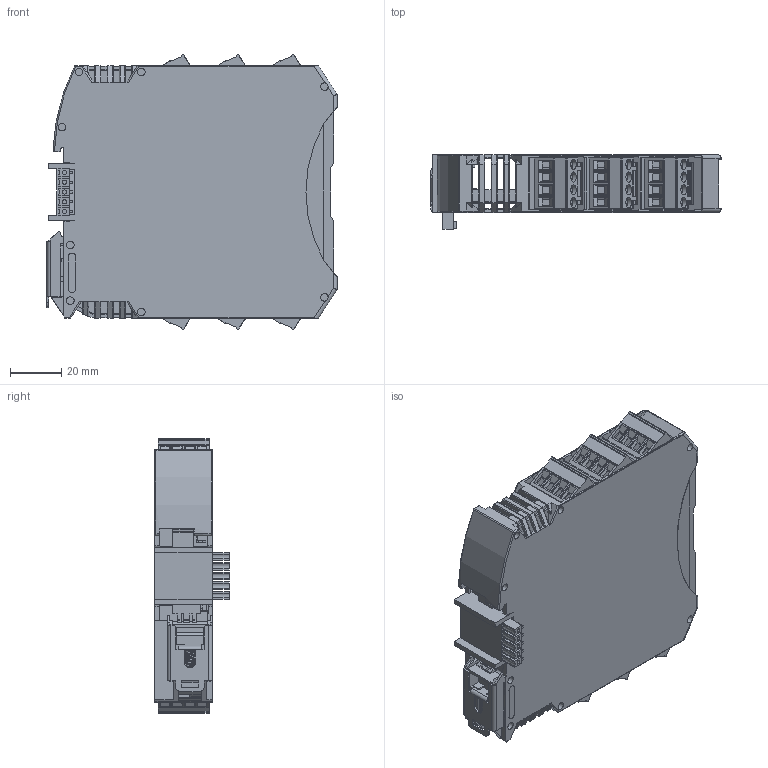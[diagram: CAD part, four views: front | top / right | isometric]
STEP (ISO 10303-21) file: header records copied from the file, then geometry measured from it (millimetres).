
FILE_DESCRIPTION(('STEP AP214'), '1');
FILE_NAME('沓劌錪', '', ('UNSPECIFIED'), ('UNSPECIFIED'), 'C3D Converter', 'C3D Toolkit', '');
FILE_SCHEMA(('AUTOMOTIVE_DESIGN { 1 0 10303 214 3 1 1}'));
Length unit declared in the file: millimetre
Products named in the file (1): NLS-16DO-12V
Bounding box: 113.65 x 29.2 x 107.69 mm (x, y, z)
Volume: 84246.9 mm3; surface area: 104996 mm2
Topology: 1 solids, 67 shells, 5368 faces, 15213 edges, 9966 vertices
Faces by surface type: plane 3940, cylinder 932, extrusion 438, cone 50, bspline 6, torus 2
Full cylindrical faces by diameter (mm): 1.4 x28, 1.6 x35, 2.2 x12, 2.8 x1, 3 x16, 3.796 x24, 4 x24, 4.5 x1
Entity records: 226059 total; most frequent: CARTESIAN_POINT 46076, ORIENTED_EDGE 30116, DIRECTION 25555, EDGE_CURVE 15058, VECTOR 12039, LINE 11601, VERTEX_POINT 9966, AXIS2_PLACEMENT_3D 6758
